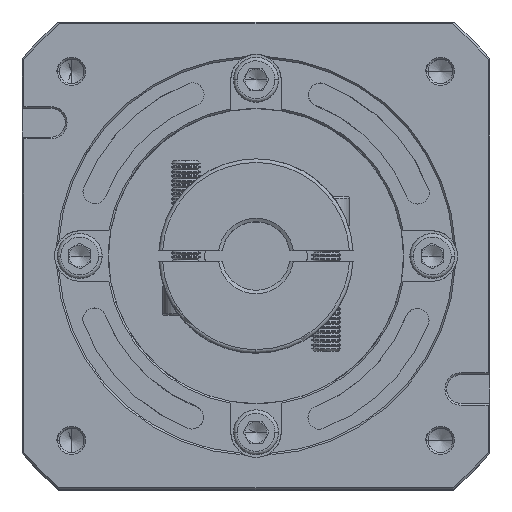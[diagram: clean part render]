
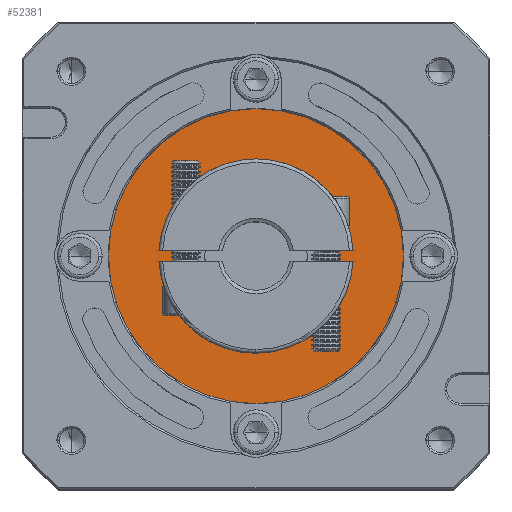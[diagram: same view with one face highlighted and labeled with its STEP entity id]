
A CAD part, top view. The second image highlights one B-rep face of the part: STEP entity #52381.
In plain terms, the highlighted planar face has unit normal (0, 0, 1).
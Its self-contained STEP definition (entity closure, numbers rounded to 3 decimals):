
#8394 = CARTESIAN_POINT ( 'NONE',  ( 32.051, 102.547, -40.936 ) ) ;
#16451 = AXIS2_PLACEMENT_3D ( 'NONE', #55923, #39470, #67163 ) ;
#18749 = EDGE_CURVE ( 'NONE', #71480, #42600, #103384, .T. ) ;
#20356 = ORIENTED_EDGE ( 'NONE', *, *, #46160, .T. ) ;
#22529 = ORIENTED_EDGE ( 'NONE', *, *, #107878, .T. ) ;
#22992 = DIRECTION ( 'NONE',  ( 1., 0., 0. ) ) ;
#23918 = EDGE_CURVE ( 'NONE', #82597, #99218, #93984, .T. ) ;
#29434 = CIRCLE ( 'NONE', #104467, 20. ) ;
#32780 = CARTESIAN_POINT ( 'NONE',  ( 73.051, 102.547, -40.936 ) ) ;
#33071 = EDGE_LOOP ( 'NONE', ( #22529, #59937 ) ) ;
#33179 = DIRECTION ( 'NONE',  ( 1., 0., 0. ) ) ;
#39470 = DIRECTION ( 'NONE',  ( 0., 0., 1. ) ) ;
#40246 = DIRECTION ( 'NONE',  ( 0., 0., 1. ) ) ;
#42600 = VERTEX_POINT ( 'NONE', #99673 ) ;
#46085 = CARTESIAN_POINT ( 'NONE',  ( 114.051, 102.547, -40.936 ) ) ;
#46160 = EDGE_CURVE ( 'NONE', #99218, #82597, #90160, .T. ) ;
#52381 = ADVANCED_FACE ( 'NONE', ( #79326, #116537 ), #75999, .T. ) ;
#55923 = CARTESIAN_POINT ( 'NONE',  ( 73.051, 102.547, -40.936 ) ) ;
#58835 = DIRECTION ( 'NONE',  ( 1., 0., 0. ) ) ;
#59937 = ORIENTED_EDGE ( 'NONE', *, *, #18749, .T. ) ;
#62448 = CARTESIAN_POINT ( 'NONE',  ( 73.051, 102.547, -40.936 ) ) ;
#63209 = DIRECTION ( 'NONE',  ( 1., 0., 0. ) ) ;
#67163 = DIRECTION ( 'NONE',  ( 1., 0., 0. ) ) ;
#69676 = DIRECTION ( 'NONE',  ( 0., 0., -1. ) ) ;
#71480 = VERTEX_POINT ( 'NONE', #110673 ) ;
#75999 = PLANE ( 'NONE',  #89175 ) ;
#79326 = FACE_OUTER_BOUND ( 'NONE', #88147, .T. ) ;
#82597 = VERTEX_POINT ( 'NONE', #46085 ) ;
#84397 = DIRECTION ( 'NONE',  ( 0., 0., 1. ) ) ;
#85488 = CARTESIAN_POINT ( 'NONE',  ( 73.051, 102.547, -40.936 ) ) ;
#88147 = EDGE_LOOP ( 'NONE', ( #117657, #20356 ) ) ;
#89175 = AXIS2_PLACEMENT_3D ( 'NONE', #104356, #84397, #58835 ) ;
#90160 = CIRCLE ( 'NONE', #94401, 41. ) ;
#91538 = DIRECTION ( 'NONE',  ( 0., 0., -1. ) ) ;
#93984 = CIRCLE ( 'NONE', #16451, 41. ) ;
#94401 = AXIS2_PLACEMENT_3D ( 'NONE', #85488, #40246, #22992 ) ;
#99218 = VERTEX_POINT ( 'NONE', #8394 ) ;
#99673 = CARTESIAN_POINT ( 'NONE',  ( 93.051, 102.547, -40.936 ) ) ;
#103384 = CIRCLE ( 'NONE', #116999, 20. ) ;
#104356 = CARTESIAN_POINT ( 'NONE',  ( 73.051, 102.547, -40.936 ) ) ;
#104467 = AXIS2_PLACEMENT_3D ( 'NONE', #32780, #69676, #33179 ) ;
#107878 = EDGE_CURVE ( 'NONE', #42600, #71480, #29434, .T. ) ;
#110673 = CARTESIAN_POINT ( 'NONE',  ( 53.051, 102.547, -40.936 ) ) ;
#116537 = FACE_BOUND ( 'NONE', #33071, .T. ) ;
#116999 = AXIS2_PLACEMENT_3D ( 'NONE', #62448, #91538, #63209 ) ;
#117657 = ORIENTED_EDGE ( 'NONE', *, *, #23918, .T. ) ;
